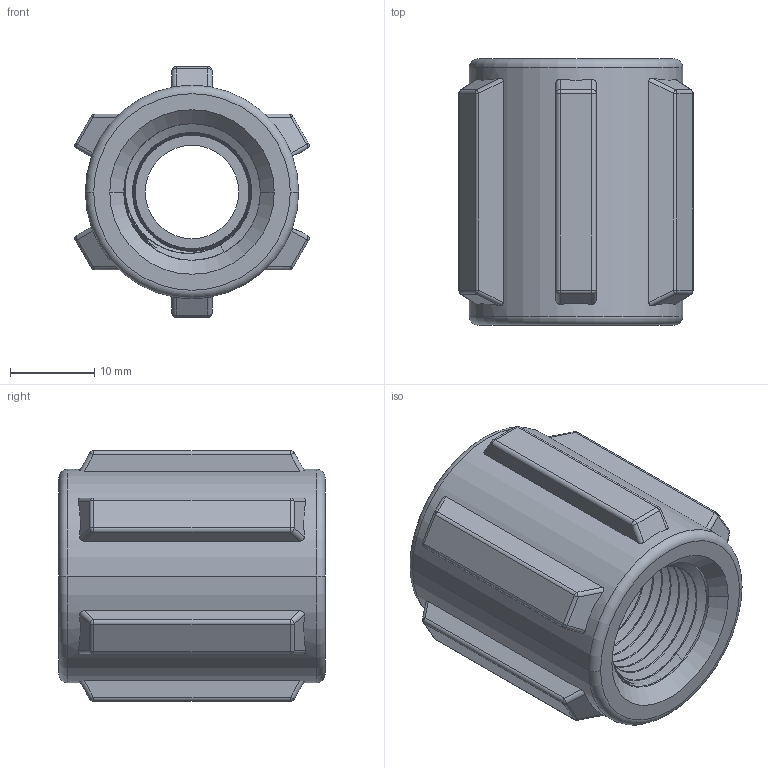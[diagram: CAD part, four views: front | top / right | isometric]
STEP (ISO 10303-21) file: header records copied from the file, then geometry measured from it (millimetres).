
FILE_DESCRIPTION(/* description */ ('Alibre Inc.'),/* implementation_level */ '2;1');
FILE_NAME(/* name */ 'export0',/* time_stamp */ '2019-10-07T14:31:54-04:00',/* author */ (''),/* organization */ (''),/* preprocessor_version */ 'ST-DEVELOPER v17',/* originating_system */ 'Alibre',/* authorisation */ '');
FILE_SCHEMA (('CONFIG_CONTROL_DESIGN'));
Length unit declared in the file: inch
Products named in the file (1): 200-62461-1000C
Bounding box: 27.84 x 31.64 x 29.8 mm (x, y, z)
Volume: 12160.2 mm3; surface area: 6223.7 mm2
Topology: 1 solids, 1 shells, 186 faces, 454 edges, 257 vertices
Faces by surface type: cylinder 52, cone 40, plane 36, bspline 30, sphere 24, torus 4
Entity records: 29502 total; most frequent: CARTESIAN_POINT 25793, ORIENTED_EDGE 866, DIRECTION 570, EDGE_CURVE 433, VERTEX_POINT 257, AXIS2_PLACEMENT_3D 231, EDGE_LOOP 196, FACE_BOUND 196
